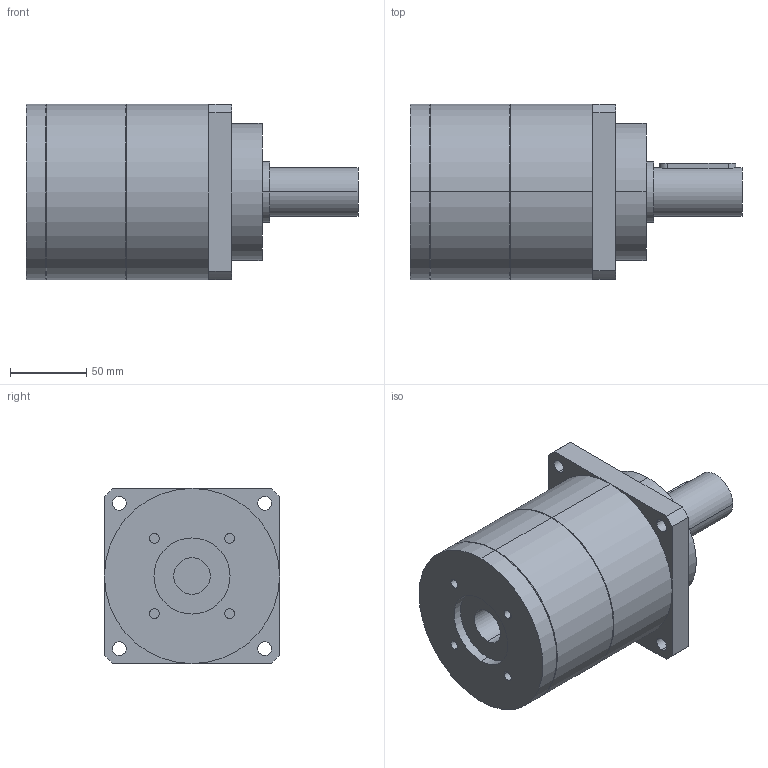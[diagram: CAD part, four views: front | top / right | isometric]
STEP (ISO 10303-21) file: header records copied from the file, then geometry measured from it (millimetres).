
FILE_DESCRIPTION(('CoCreate Modeling STEP Export'),'2;1');
FILE_NAME('GPT120_ig-3-4-5-7-10_32_B5A_24_P15.stp','2015-02-04T16:59:53',(''),(''),'CoCreate Modeling STEP processor for AP214 (Solid Model)','CoCreate Modeling 16.00C 25-Feb-2009 (C) Parametric Technology GmbH','');
FILE_SCHEMA(('AUTOMOTIVE_DESIGN { 1 0 10303 214 1 1 1 1 }'));
Length unit declared in the file: millimetre
Products named in the file (2): GPT120_ig-3-4-5-7-10_32_B5A_24_P15
Assembly tree (1 placements, depth 2):
  GPT120_ig-3-4-5-7-10_32_B5A_24_P15
    GPT120_ig-3-4-5-7-10_32_B5A_24_P15
Bounding box: 218 x 115 x 115 mm (x, y, z)
Volume: 1580171.9 mm3; surface area: 97734.1 mm2
Topology: 1 solids, 1 shells, 69 faces, 175 edges, 120 vertices
Faces by surface type: cylinder 40, plane 25, cone 4
Entity records: 2235 total; most frequent: CARTESIAN_POINT 702, ORIENTED_EDGE 350, DIRECTION 262, EDGE_CURVE 175, VERTEX_POINT 120, AXIS2_PLACEMENT_3D 98, EDGE_LOOP 89, FACE_OUTER_BOUND 69
